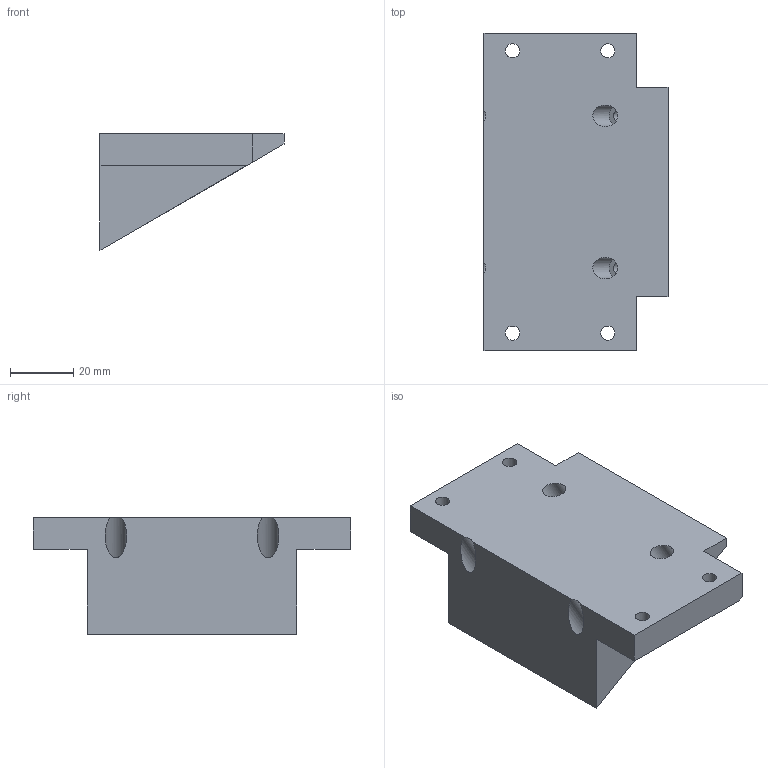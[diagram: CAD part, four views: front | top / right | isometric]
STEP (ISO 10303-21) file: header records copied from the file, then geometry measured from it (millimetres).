
FILE_DESCRIPTION(('FreeCAD Model'),'2;1');
FILE_NAME('Open CASCADE Shape Model','2026-11-17T14:01:24',('FreeCAD'),( 'FreeCAD'),'Open CASCADE STEP processor 7.8','FreeCAD','Unknown');
FILE_SCHEMA(('AUTOMOTIVE_DESIGN { 1 0 10303 214 1 1 1 1 }'));
Length unit declared in the file: millimetre
Products named in the file (1): Open CASCADE STEP translator 7.8 2
Bounding box: 58 x 100 x 36.74 mm (x, y, z)
Volume: 89375.7 mm3; surface area: 19065.9 mm2
Topology: 1 solids, 1 shells, 58 faces, 150 edges, 100 vertices
Faces by surface type: plane 46, cylinder 12
Full cylindrical faces by diameter (mm): 3.6 x4, 4.5 x4, 6.8 x4
Entity records: 1804 total; most frequent: CARTESIAN_POINT 309, ORIENTED_EDGE 300, DIRECTION 296, EDGE_CURVE 150, LINE 122, VECTOR 122, VERTEX_POINT 100, AXIS2_PLACEMENT_3D 87
